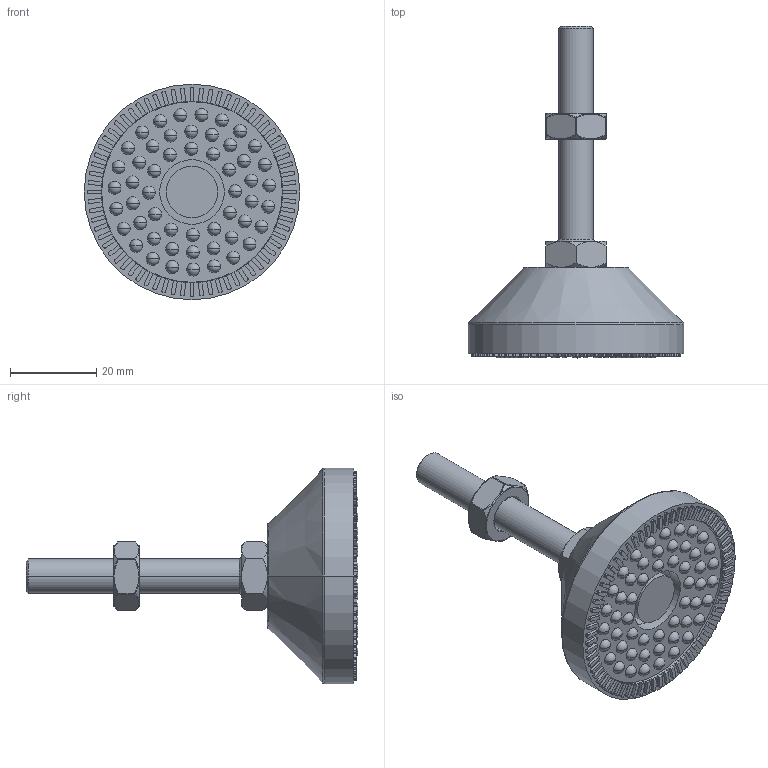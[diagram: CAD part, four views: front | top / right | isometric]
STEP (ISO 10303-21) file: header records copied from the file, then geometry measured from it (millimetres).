
FILE_DESCRIPTION (( 'STEP AP203' ), '1' );
FILE_NAME ('7086.STEP', '2016-07-14T12:07:58', ( 'RosInstal-MKM' ), ( '' ), 'SwSTEP 2.0', 'SolidWorks 2014', '' );
FILE_SCHEMA (( 'CONFIG_CONTROL_DESIGN' ));
Length unit declared in the file: millimetre
Products named in the file (5): Ïîäîøâà ïîâîðîòíàÿ 50ìì; Ïðîêëàäêà îò ñêîëüæåíèÿ ïîä 50ìì; Øïèëüêà Ì8 50ìì; Ãàéêà áåç äûðêè Ì8; 7086
Assembly tree (4 placements, depth 2):
  7086
    Ïîäîøâà ïîâîðîòíàÿ 50ìì
    Ïðîêëàäêà îò ñêîëüæåíèÿ ïîä 50ìì
    Øïèëüêà Ì8 50ìì
    Ãàéêà áåç äûðêè Ì8
Bounding box: 50 x 77 x 50 mm (x, y, z)
Volume: 31159.8 mm3; surface area: 13992.2 mm2
Topology: 4 solids, 4 shells, 770 faces, 2209 edges, 1395 vertices
Faces by surface type: plane 365, cylinder 201, sphere 136, cone 36, bspline 18, torus 14
Entity records: 24750 total; most frequent: CARTESIAN_POINT 4897, DIRECTION 4233, ORIENTED_EDGE 3978, EDGE_CURVE 1989, AXIS2_PLACEMENT_3D 1559, VERTEX_POINT 1285, VECTOR 1115, LINE 1115
